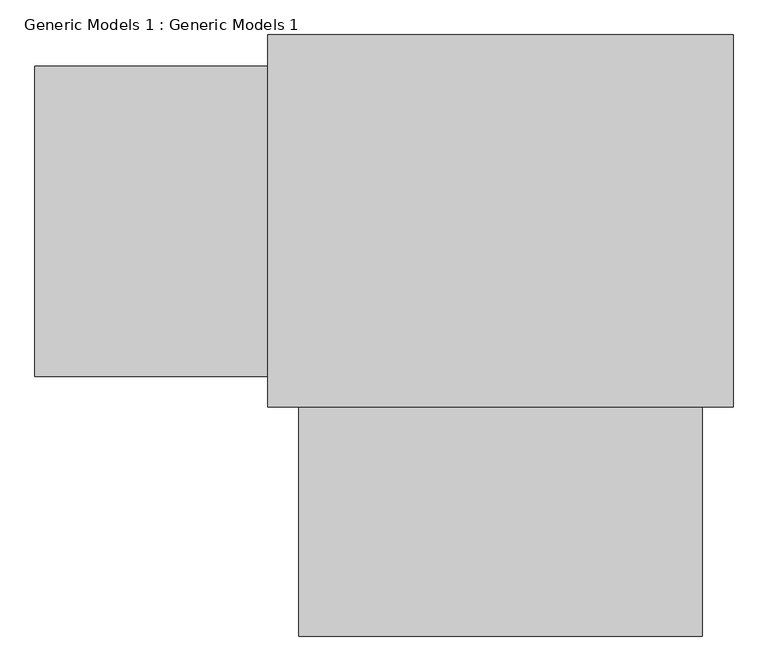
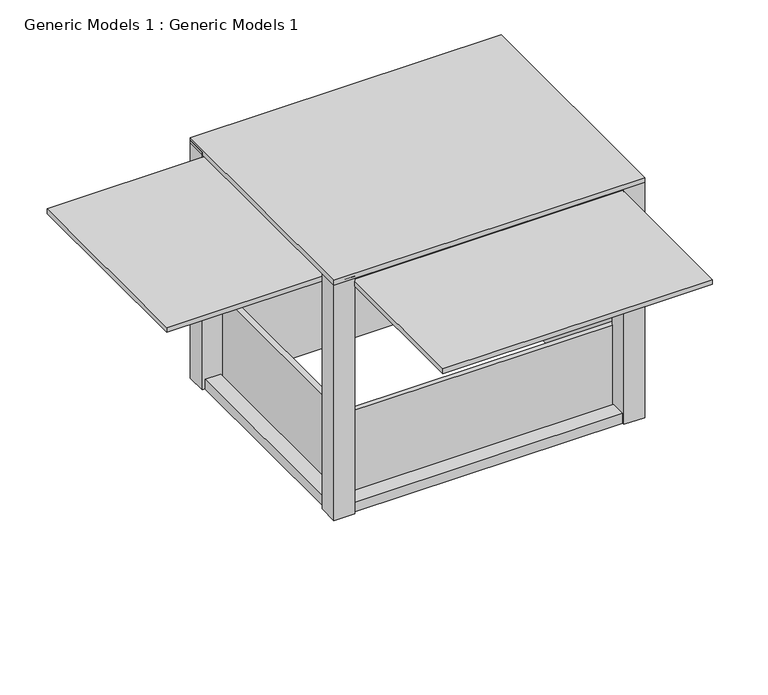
"""IFC4 building model written with IfcOpenShell, lengths in millimetres: proxy geometry, Generic Models 1 : Generic Models 1."""

from ifc_helpers import new_model, si_unit, frame, origin, place, context, project, spatial, polyline, outline, extrude, faceted_brep, source, transform, mapped, element, save


def generic_models_1_generic_models_1_2e5872b8(model_context):
    return source(origin(), model_context, "Body", "SolidModel", [
        extrude(outline(polyline([(129787.4280717, 141104.5393623), (129787.4280717, 138666.1393623), (126739.4280717, 138666.1393623), (126739.4280717, 141104.5393623), (129787.4280717, 141104.5393623)])), frame((0.0, 0.0, 5968.9941705), z_axis=(0.0, 0.0, 1.0), x_axis=(1.0, 0.0, 0.0)), (0.0, 0.0, 1.0), 50.8),
        extrude(outline(polyline([(125215.4280717, 140898.7292903), (126764.8280717, 140898.7292903), (126764.8280717, 138866.7292903), (125215.4280717, 138866.7292903), (125215.4280717, 140898.7292903)])), frame((0.0, 0.0, 5892.7941705), z_axis=(0.0, 0.0, 1.0), x_axis=(1.0, 0.0, 0.0)), (0.0, 0.0, 1.0), 50.8),
        extrude(outline(polyline([(129584.2280717, 138688.9292903), (129584.2280717, 137164.9292903), (126942.6280717, 137164.9292903), (126942.6280717, 138688.9292903), (129584.2280717, 138688.9292903)])), frame((0.0, 0.0, 5892.7941705), z_axis=(0.0, 0.0, 1.0), x_axis=(1.0, 0.0, 0.0)), (0.0, 0.0, 1.0), 50.8),
        extrude(outline(polyline([(126934.4782498, 138866.7292903), (126934.4782498, 140898.7292903), (126985.2782498, 140898.7292903), (126985.2782498, 138911.1792903), (129609.6280717, 138911.1792903), (129609.6280717, 138860.3792903), (126934.4782498, 138860.3792903), (126934.4782498, 138866.7292903)])), frame((0.0, 0.0, 3530.5941705), z_axis=(0.0, 0.0, 1.0), x_axis=(1.0, 0.0, 0.0)), (0.0, 0.0, 1.0), 914.4),
        extrude(outline(polyline([(129584.2280717, 138688.9292903), (126942.6280717, 138688.9292903), (126942.6280717, 138841.3292903), (129584.2280717, 138841.3292903), (129584.2280717, 138688.9292903)])), frame((0.0, 0.0, 5867.3941705), z_axis=(0.0, 0.0, 1.0), x_axis=(1.0, 0.0, 0.0)), (0.0, 0.0, 1.0), 114.3),
        extrude(outline(polyline([(129762.0280717, 138866.7292903), (129609.6280717, 138866.7292903), (129609.6280717, 140898.7292903), (129762.0280717, 140898.7292903), (129762.0280717, 138866.7292903)])), frame((0.0, 0.0, 3530.5941705), z_axis=(0.0, 0.0, 1.0), x_axis=(1.0, 0.0, 0.0)), (0.0, 0.0, 1.0), 2451.1),
        extrude(outline(polyline([(126942.6280717, 141076.5292903), (129584.2280717, 141076.5292903), (129584.2280717, 140924.1292903), (126942.6280717, 140924.1292903), (126942.6280717, 141076.5292903)])), frame((0.0, 0.0, 3530.5941705), z_axis=(0.0, 0.0, 1.0), x_axis=(1.0, 0.0, 0.0)), (0.0, 0.0, 1.0), 2451.1),
        extrude(outline(polyline([(126764.8280717, 140898.7292903), (126917.2280717, 140898.7292903), (126917.2280717, 138866.7292903), (126764.8280717, 138866.7292903), (126764.8280717, 140898.7292903)])), frame((0.0, 0.0, 5867.3941705), z_axis=(0.0, 0.0, 1.0), x_axis=(1.0, 0.0, 0.0)), (0.0, 0.0, 1.0), 114.3),
        extrude(outline(polyline([(129584.2280717, 138688.9292903), (126942.6280717, 138688.9292903), (126942.6280717, 138841.3292903), (129584.2280717, 138841.3292903), (129584.2280717, 138688.9292903)])), frame((0.0, 0.0, 3530.5941705), z_axis=(0.0, 0.0, 1.0), x_axis=(1.0, 0.0, 0.0)), (0.0, 0.0, 1.0), 101.6),
        extrude(outline(polyline([(126764.8280717, 140898.7292903), (126917.2280717, 140898.7292903), (126917.2280717, 138866.7292903), (126764.8280717, 138866.7292903), (126764.8280717, 140898.7292903)])), frame((0.0, 0.0, 3530.5941705), z_axis=(0.0, 0.0, 1.0), x_axis=(1.0, 0.0, 0.0)), (0.0, 0.0, 1.0), 101.6),
        faceted_brep([(126942.6280717, 138666.1393623, 5994.3941705), (126942.6280717, 138866.7292903, 5994.3941705), (126739.4280717, 138866.7292903, 5994.3941705), (126739.4280717, 138666.1393623, 5994.3941705), (126942.6280717, 138666.1393623, 3530.5941705), (126739.4280717, 138666.1393623, 3530.5941705), (126739.4280717, 138866.7292903, 3530.5941705), (126942.6280717, 138866.7292903, 3530.5941705), (126942.6280717, 138866.7292903, 5867.3941705), (126942.6280717, 138866.7292903, 3632.1941705)], [[[0, 1, 2, 3]], [[4, 5, 6, 7]], [[0, 3, 5, 4]], [[3, 2, 6, 5]], [[2, 1, 8, 9, 7, 6]], [[1, 0, 4, 7, 9, 8]]]),
        faceted_brep([(129787.4280717, 138666.1393623, 5994.3941705), (129787.4280717, 138866.7292903, 5994.3941705), (129584.2280717, 138866.7292903, 5994.3941705), (129584.2280717, 138666.1393623, 5994.3941705), (129787.4280717, 138666.1393623, 3530.5941705), (129584.2280717, 138666.1393623, 3530.5941705), (129584.2280717, 138866.7292903, 3530.5941705), (129787.4280717, 138866.7292903, 3530.5941705)], [[[0, 1, 2, 3]], [[4, 5, 6, 7]], [[0, 3, 5, 4]], [[3, 2, 6, 5]], [[2, 1, 7, 6]], [[1, 0, 4, 7]]]),
        faceted_brep([(126942.6280717, 140898.7292903, 5994.3941705), (126942.6280717, 141101.9292903, 5994.3941705), (126739.4280717, 141101.9292903, 5994.3941705), (126739.4280717, 140898.7292903, 5994.3941705), (126942.6280717, 140898.7292903, 3530.5941705), (126739.4280717, 140898.7292903, 3530.5941705), (126739.4280717, 141101.9292903, 3530.5941705), (126942.6280717, 141101.9292903, 3530.5941705), (126942.6280717, 140898.7292903, 3632.1941705), (126942.6280717, 140898.7292903, 5867.3941705)], [[[0, 1, 2, 3]], [[4, 5, 6, 7]], [[0, 3, 5, 4, 8, 9]], [[3, 2, 6, 5]], [[2, 1, 7, 6]], [[1, 0, 9, 8, 4, 7]]]),
        faceted_brep([(129787.4280717, 140898.7292903, 5994.3941705), (129787.4280717, 141101.9292903, 5994.3941705), (129584.2280717, 141101.9292903, 5994.3941705), (129584.2280717, 140898.7292903, 5994.3941705), (129787.4280717, 140898.7292903, 3530.5941705), (129584.2280717, 140898.7292903, 3530.5941705), (129584.2280717, 141101.9292903, 3530.5941705), (129787.4280717, 141101.9292903, 3530.5941705)], [[[0, 1, 2, 3]], [[4, 5, 6, 7]], [[0, 3, 5, 4]], [[3, 2, 6, 5]], [[2, 1, 7, 6]], [[1, 0, 4, 7]]]),
    ])


if __name__ == "__main__":
    model = new_model("IFC4")
    model_context = context("Model", 3, world=origin())
    ifc_project = project(units=[si_unit("LENGTHUNIT", "METRE", prefix="MILLI")], contexts=[model_context])
    site = spatial("IfcSite", under=ifc_project)
    building = spatial("IfcBuilding", under=site)
    placement = place(None, origin())
    generic_models_1_generic_models_1_shape = generic_models_1_generic_models_1_2e5872b8(model_context)
    element("IfcBuildingElementProxy", 1, Name="Generic Models 1 : Generic Models 1", ObjectType="Generic Models 1 : Generic Models 1", at=placement, inside=building, context=model_context, shape_type="MappedRepresentation", body=[
        mapped(generic_models_1_generic_models_1_shape, transform((0.0, 0.0, 0.0), x_axis=(1.0, 0.0, 0.0), y_axis=(0.0, 1.0, 0.0), z_axis=(0.0, 0.0, 1.0))),
    ])
    save(model, "model.ifc")
